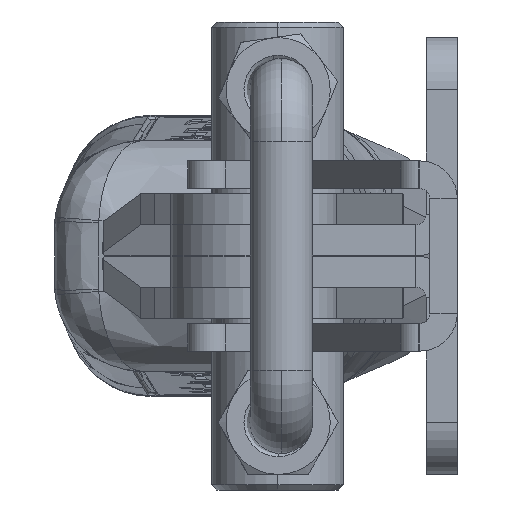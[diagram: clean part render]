
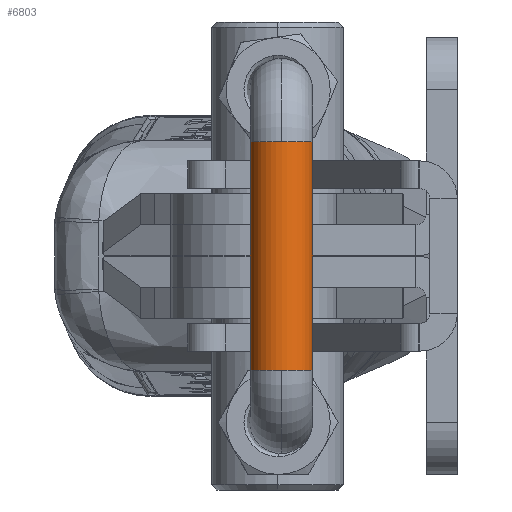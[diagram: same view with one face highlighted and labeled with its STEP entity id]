
A CAD part, left-side view. The second image highlights one B-rep face of the part: STEP entity #6803.
In plain terms, the highlighted cylindrical face has radius 3 mm (diameter 6 mm), a partial arc.
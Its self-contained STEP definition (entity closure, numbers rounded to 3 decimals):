
#83 = CARTESIAN_POINT ( 'NONE',  ( 11., 88., 0. ) ) ;
#458 = VERTEX_POINT ( 'NONE', #20130 ) ;
#1860 = DIRECTION ( 'NONE',  ( 0., 0., 1. ) ) ;
#2291 = CARTESIAN_POINT ( 'NONE',  ( 11., 88., 0. ) ) ;
#3377 = CARTESIAN_POINT ( 'NONE',  ( -11., 88., 0. ) ) ;
#3606 = CIRCLE ( 'NONE', #4445, 3. ) ;
#3970 = CIRCLE ( 'NONE', #13710, 3. ) ;
#4045 = DIRECTION ( 'NONE',  ( 0., 0., 1. ) ) ;
#4445 = AXIS2_PLACEMENT_3D ( 'NONE', #2291, #14580, #4045 ) ;
#4687 = VERTEX_POINT ( 'NONE', #22716 ) ;
#4909 = ORIENTED_EDGE ( 'NONE', *, *, #16544, .F. ) ;
#5038 = CYLINDRICAL_SURFACE ( 'NONE', #10331, 3. ) ;
#5242 = CARTESIAN_POINT ( 'NONE',  ( -11., 88., 0. ) ) ;
#5504 = EDGE_CURVE ( 'NONE', #15909, #9272, #3970, .T. ) ;
#5791 = CARTESIAN_POINT ( 'NONE',  ( -11., 88., 3. ) ) ;
#6803 = ADVANCED_FACE ( 'NONE', ( #14392 ), #5038, .T. ) ;
#6809 = CARTESIAN_POINT ( 'NONE',  ( 11., 91., 0. ) ) ;
#6994 = DIRECTION ( 'NONE',  ( 0., 0., 1. ) ) ;
#7101 = DIRECTION ( 'NONE',  ( 1., 0., 0. ) ) ;
#8257 = ORIENTED_EDGE ( 'NONE', *, *, #16818, .F. ) ;
#8372 = ORIENTED_EDGE ( 'NONE', *, *, #5504, .T. ) ;
#8521 = CIRCLE ( 'NONE', #22180, 3. ) ;
#8663 = DIRECTION ( 'NONE',  ( 0., 0., -1. ) ) ;
#9272 = VERTEX_POINT ( 'NONE', #18701 ) ;
#9396 = EDGE_CURVE ( 'NONE', #9272, #458, #12130, .T. ) ;
#10317 = VECTOR ( 'NONE', #14495, 1000. ) ;
#10331 = AXIS2_PLACEMENT_3D ( 'NONE', #3377, #19261, #8663 ) ;
#11060 = DIRECTION ( 'NONE',  ( 1., 0., 0. ) ) ;
#12130 = CIRCLE ( 'NONE', #12594, 3. ) ;
#12335 = DIRECTION ( 'NONE',  ( 1., 0., 0. ) ) ;
#12594 = AXIS2_PLACEMENT_3D ( 'NONE', #17682, #7101, #19465 ) ;
#13710 = AXIS2_PLACEMENT_3D ( 'NONE', #5242, #17576, #6994 ) ;
#14027 = EDGE_LOOP ( 'NONE', ( #8372, #21467, #16679, #4909, #8257, #15945 ) ) ;
#14032 = VECTOR ( 'NONE', #11060, 1000. ) ;
#14392 = FACE_OUTER_BOUND ( 'NONE', #14027, .T. ) ;
#14495 = DIRECTION ( 'NONE',  ( 1., 0., 0. ) ) ;
#14577 = LINE ( 'NONE', #5791, #14032 ) ;
#14580 = DIRECTION ( 'NONE',  ( 1., 0., 0. ) ) ;
#14659 = CARTESIAN_POINT ( 'NONE',  ( -11., 88., -3. ) ) ;
#15004 = LINE ( 'NONE', #18072, #10317 ) ;
#15909 = VERTEX_POINT ( 'NONE', #14659 ) ;
#15945 = ORIENTED_EDGE ( 'NONE', *, *, #22457, .F. ) ;
#16125 = VERTEX_POINT ( 'NONE', #16839 ) ;
#16544 = EDGE_CURVE ( 'NONE', #22361, #16125, #3606, .T. ) ;
#16679 = ORIENTED_EDGE ( 'NONE', *, *, #17057, .T. ) ;
#16818 = EDGE_CURVE ( 'NONE', #4687, #22361, #8521, .T. ) ;
#16839 = CARTESIAN_POINT ( 'NONE',  ( 11., 88., 3. ) ) ;
#17057 = EDGE_CURVE ( 'NONE', #458, #16125, #14577, .T. ) ;
#17576 = DIRECTION ( 'NONE',  ( 1., 0., 0. ) ) ;
#17682 = CARTESIAN_POINT ( 'NONE',  ( -11., 88., 0. ) ) ;
#18072 = CARTESIAN_POINT ( 'NONE',  ( -11., 88., -3. ) ) ;
#18701 = CARTESIAN_POINT ( 'NONE',  ( -11., 91., 0. ) ) ;
#19261 = DIRECTION ( 'NONE',  ( 1., 0., 0. ) ) ;
#19465 = DIRECTION ( 'NONE',  ( 0., 0., 1. ) ) ;
#20130 = CARTESIAN_POINT ( 'NONE',  ( -11., 88., 3. ) ) ;
#21467 = ORIENTED_EDGE ( 'NONE', *, *, #9396, .T. ) ;
#22180 = AXIS2_PLACEMENT_3D ( 'NONE', #83, #12335, #1860 ) ;
#22361 = VERTEX_POINT ( 'NONE', #6809 ) ;
#22457 = EDGE_CURVE ( 'NONE', #15909, #4687, #15004, .T. ) ;
#22716 = CARTESIAN_POINT ( 'NONE',  ( 11., 88., -3. ) ) ;
